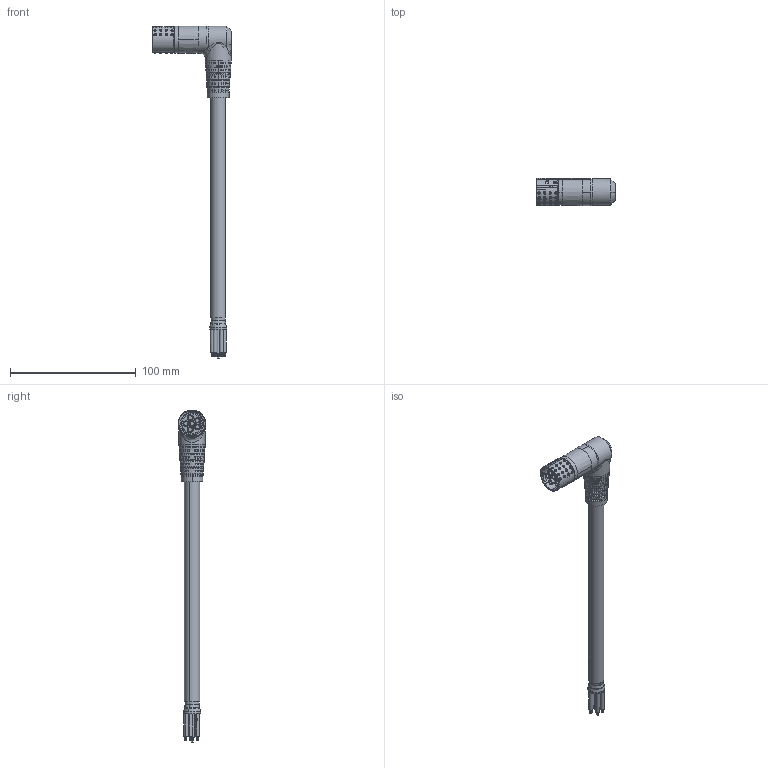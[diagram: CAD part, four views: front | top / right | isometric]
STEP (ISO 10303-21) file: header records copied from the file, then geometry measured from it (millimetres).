
FILE_DESCRIPTION (( 'STEP AP214' ), '1' );
FILE_NAME ('W-TEC 15M GLATT-BU_90°R.STEP', '2021-07-05T13:38:23', ( '' ), ( '' ), 'SwSTEP 2.0', 'SolidWorks 2021', '' );
FILE_SCHEMA (( 'AUTOMOTIVE_DESIGN' ));
Length unit declared in the file: millimetre
Products named in the file (1): W-TEC 15M GLATT-BU_90訌
Bounding box: 62.81 x 21.83 x 264.33 mm (x, y, z)
Surface area: 22057.5 mm2 (no closed solid volume)
Topology: 0 solids, 5 shells, 1963 faces, 4704 edges, 3072 vertices
Faces by surface type: cylinder 877, plane 599, bspline 444, cone 42, torus 1
Entity records: 102693 total; most frequent: CARTESIAN_POINT 41921, ORIENTED_EDGE 9193, DIRECTION 8457, EDGE_CURVE 4639, AXIS2_PLACEMENT_3D 3538, VERTEX_POINT 3072, EDGE_LOOP 2375, CIRCLE 2018
